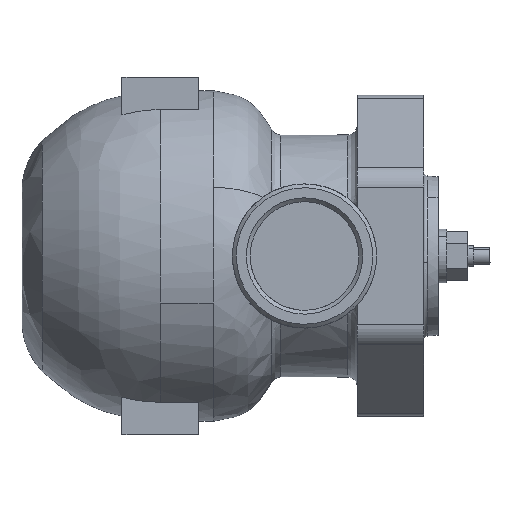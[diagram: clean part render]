
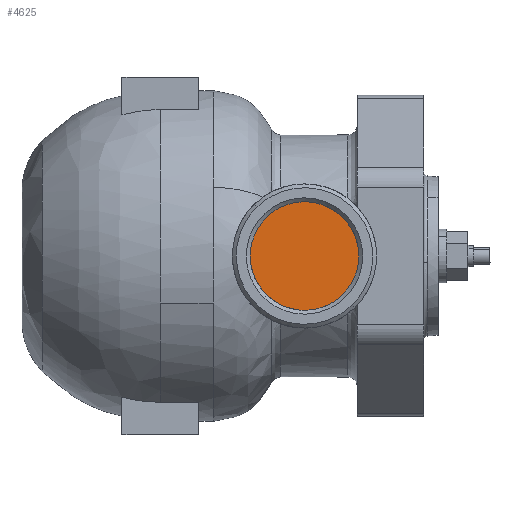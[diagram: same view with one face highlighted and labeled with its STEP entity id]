
A CAD part, left-side view. The second image highlights one B-rep face of the part: STEP entity #4625.
In plain terms, the highlighted free-form (B-spline) face has degree [1, 1] with [2, 2] control points.
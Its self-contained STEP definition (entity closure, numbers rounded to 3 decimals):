
#1480=CARTESIAN_POINT('',(-74.,-19.45,-20.496));
#1481=VERTEX_POINT('',#1480);
#1482=CARTESIAN_POINT('',(-74.,-28.256,0.));
#1483=VERTEX_POINT('',#1482);
#1484=CARTESIAN_POINT('',(-74.,-19.45,-20.496));
#1485=CARTESIAN_POINT('',(-74.,-20.837,-19.181));
#1486=CARTESIAN_POINT('',(-74.,-23.028,-16.632));
#1487=CARTESIAN_POINT('',(-74.,-25.461,-12.504));
#1488=CARTESIAN_POINT('',(-74.,-26.884,-8.945));
#1489=CARTESIAN_POINT('',(-74.,-27.964,-4.777));
#1490=CARTESIAN_POINT('',(-74.,-28.257,-1.911));
#1491=CARTESIAN_POINT('',(-74.,-28.256,0.));
#1492=B_SPLINE_CURVE_WITH_KNOTS('',3,(#1484,#1485,#1486,#1487,#1488,#1489,#1490,#1491),.UNSPECIFIED.,.F.,.U.,(4,1,1,1,1,4),(0.,5.733,10.033,14.333,17.199,22.932),.UNSPECIFIED.);
#1493=EDGE_CURVE('',#1481,#1483,#1492,.T.);
#1504=CARTESIAN_POINT('',(-74.,19.45,20.496));
#1505=VERTEX_POINT('',#1504);
#1511=CARTESIAN_POINT('',(-74.,0.,28.256));
#1512=VERTEX_POINT('',#1511);
#1513=CARTESIAN_POINT('',(-74.,0.,28.256));
#1514=CARTESIAN_POINT('',(-74.,1.788,28.257));
#1515=CARTESIAN_POINT('',(-74.,4.581,27.99));
#1516=CARTESIAN_POINT('',(-74.,9.468,26.778));
#1517=CARTESIAN_POINT('',(-74.,14.41,24.6));
#1518=CARTESIAN_POINT('',(-74.,17.911,21.958));
#1519=CARTESIAN_POINT('',(-74.,19.45,20.496));
#1520=B_SPLINE_CURVE_WITH_KNOTS('',3,(#1513,#1514,#1515,#1516,#1517,#1518,#1519),.UNSPECIFIED.,.F.,.U.,(4,1,1,1,4),(0.,5.363,8.38,15.084,21.453),.UNSPECIFIED.);
#1521=EDGE_CURVE('',#1512,#1505,#1520,.T.);
#1523=CARTESIAN_POINT('',(-74.,-28.256,0.));
#1524=CARTESIAN_POINT('',(-74.,-28.257,1.734));
#1525=CARTESIAN_POINT('',(-74.,-27.989,4.623));
#1526=CARTESIAN_POINT('',(-74.,-26.864,9.117));
#1527=CARTESIAN_POINT('',(-74.,-25.241,12.967));
#1528=CARTESIAN_POINT('',(-74.,-22.786,16.898));
#1529=CARTESIAN_POINT('',(-74.,-20.437,19.621));
#1530=CARTESIAN_POINT('',(-74.,-17.523,22.262));
#1531=CARTESIAN_POINT('',(-74.,-14.109,24.667));
#1532=CARTESIAN_POINT('',(-74.,-9.885,26.601));
#1533=CARTESIAN_POINT('',(-74.,-5.086,27.929));
#1534=CARTESIAN_POINT('',(-74.,-1.965,28.257));
#1535=CARTESIAN_POINT('',(-74.,0.,28.256));
#1536=B_SPLINE_CURVE_WITH_KNOTS('',3,(#1523,#1524,#1525,#1526,#1527,#1528,#1529,#1530,#1531,#1532,#1533,#1534,#1535),.UNSPECIFIED.,.F.,.U.,(4,1,1,1,1,1,1,1,1,1,4),(0.,5.201,8.669,13.87,17.685,22.539,24.62,29.475,35.023,38.49,44.385),.UNSPECIFIED.);
#1537=EDGE_CURVE('',#1483,#1512,#1536,.T.);
#1560=CARTESIAN_POINT('',(-74.,0.,-28.256));
#1561=VERTEX_POINT('',#1560);
#1562=CARTESIAN_POINT('',(-74.,0.,-28.256));
#1563=CARTESIAN_POINT('',(-74.,-1.453,-28.256));
#1564=CARTESIAN_POINT('',(-74.,-4.693,-28.006));
#1565=CARTESIAN_POINT('',(-74.,-9.805,-26.706));
#1566=CARTESIAN_POINT('',(-74.,-14.964,-24.209));
#1567=CARTESIAN_POINT('',(-74.,-18.073,-21.804));
#1568=CARTESIAN_POINT('',(-74.,-19.45,-20.496));
#1569=B_SPLINE_CURVE_WITH_KNOTS('',3,(#1562,#1563,#1564,#1565,#1566,#1567,#1568),.UNSPECIFIED.,.F.,.U.,(4,1,1,1,4),(0.,4.358,9.721,15.754,21.453),.UNSPECIFIED.);
#1570=EDGE_CURVE('',#1561,#1481,#1569,.T.);
#1572=CARTESIAN_POINT('',(-74.,28.256,0.));
#1573=VERTEX_POINT('',#1572);
#1574=CARTESIAN_POINT('',(-74.,28.256,0.));
#1575=CARTESIAN_POINT('',(-74.,28.256,-11.704));
#1576=CARTESIAN_POINT('',(-74.,19.98,-19.98));
#1577=CARTESIAN_POINT('',(-74.,11.704,-28.256));
#1578=CARTESIAN_POINT('',(-74.,0.,-28.256));
#1586=(BOUNDED_CURVE()B_SPLINE_CURVE(2,(#1574,#1575,#1576,#1577,#1578),.UNSPECIFIED.,.F.,.U.)B_SPLINE_CURVE_WITH_KNOTS((3,2,3),(0.,0.5,1.),.UNSPECIFIED.)CURVE()GEOMETRIC_REPRESENTATION_ITEM()RATIONAL_B_SPLINE_CURVE((1.,0.924,1.,0.924,1.))REPRESENTATION_ITEM(''));
#1587=EDGE_CURVE('',#1573,#1561,#1586,.T.);
#1589=CARTESIAN_POINT('',(-74.,19.45,20.496));
#1590=CARTESIAN_POINT('',(-74.,20.49,19.51));
#1591=CARTESIAN_POINT('',(-74.,22.58,17.2));
#1592=CARTESIAN_POINT('',(-74.,24.911,13.568));
#1593=CARTESIAN_POINT('',(-74.,26.76,9.412));
#1594=CARTESIAN_POINT('',(-74.,27.959,5.016));
#1595=CARTESIAN_POINT('',(-74.,28.256,1.672));
#1596=CARTESIAN_POINT('',(-74.,28.256,0.));
#1597=B_SPLINE_CURVE_WITH_KNOTS('',3,(#1589,#1590,#1591,#1592,#1593,#1594,#1595,#1596),.UNSPECIFIED.,.F.,.U.,(4,1,1,1,1,4),(0.,4.3,9.316,12.899,17.916,22.932),.UNSPECIFIED.);
#1598=EDGE_CURVE('',#1505,#1573,#1597,.T.);
#4612=CARTESIAN_POINT('',(-74.,-31.079,31.079));
#4613=CARTESIAN_POINT('',(-74.,-31.079,-31.079));
#4614=CARTESIAN_POINT('',(-74.,31.079,31.079));
#4615=CARTESIAN_POINT('',(-74.,31.079,-31.079));
#4616=B_SPLINE_SURFACE_WITH_KNOTS('',1,1,((#4612,#4614),(#4613,#4615)),.UNSPECIFIED.,.F.,.F.,.U.,(2,2),(2,2),(0.,62.158),(0.,62.158),.UNSPECIFIED.);
#4617=ORIENTED_EDGE('',*,*,#1570,.T.);
#4618=ORIENTED_EDGE('',*,*,#1493,.T.);
#4619=ORIENTED_EDGE('',*,*,#1537,.T.);
#4620=ORIENTED_EDGE('',*,*,#1521,.T.);
#4621=ORIENTED_EDGE('',*,*,#1598,.T.);
#4622=ORIENTED_EDGE('',*,*,#1587,.T.);
#4623=EDGE_LOOP('',(#4617,#4618,#4619,#4620,#4621,#4622));
#4624=FACE_OUTER_BOUND('',#4623,.T.);
#4625=ADVANCED_FACE('',(#4624),#4616,.F.);
